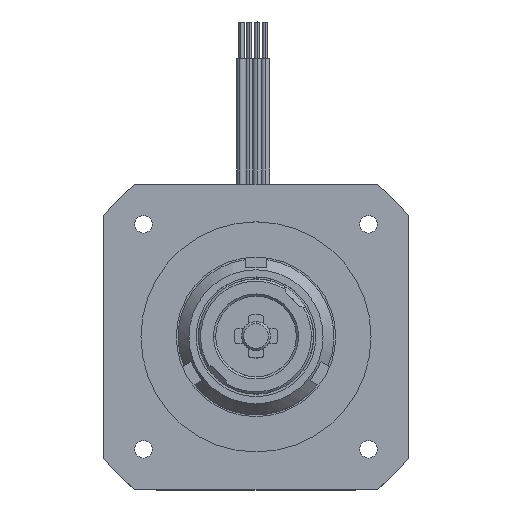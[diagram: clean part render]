
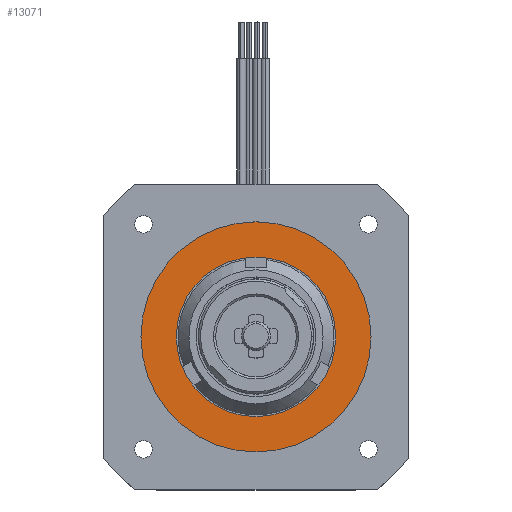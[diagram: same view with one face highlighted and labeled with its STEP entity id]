
A CAD part, top view. The second image highlights one B-rep face of the part: STEP entity #13071.
In plain terms, the highlighted planar face has unit normal (0, 0, 1).
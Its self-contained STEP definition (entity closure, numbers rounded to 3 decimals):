
#1289 = EDGE_LOOP ( 'NONE', ( #14192, #14636 ) ) ;
#1325 = EDGE_LOOP ( 'NONE', ( #14190, #14188 ) ) ;
#2038 = AXIS2_PLACEMENT_3D ( 'NONE', #9612, #9616, #9617 ) ;
#2869 = AXIS2_PLACEMENT_3D ( 'NONE', #11536, #11537, #11538 ) ;
#2881 = FACE_BOUND ( 'NONE', #1325, .T. ) ;
#2935 = VERTEX_POINT ( 'NONE', #9916 ) ;
#2980 = VERTEX_POINT ( 'NONE', #9933 ) ;
#3073 = VERTEX_POINT ( 'NONE', #9963 ) ;
#3076 = FACE_OUTER_BOUND ( 'NONE', #1289, .T. ) ;
#3139 = VERTEX_POINT ( 'NONE', #9988 ) ;
#3978 = CIRCLE ( 'NONE', #4844, 15.875 ) ;
#3989 = CIRCLE ( 'NONE', #2038, 11. ) ;
#4844 = AXIS2_PLACEMENT_3D ( 'NONE', #8866, #8867, #8868 ) ;
#5003 = EDGE_CURVE ( 'NONE', #3139, #2980, #13896, .T. ) ;
#5066 = EDGE_CURVE ( 'NONE', #3073, #2935, #14057, .T. ) ;
#8866 = CARTESIAN_POINT ( 'NONE',  ( 8.538, -5.732, 16.882 ) ) ;
#8867 = DIRECTION ( 'NONE',  ( 0., 0., 1. ) ) ;
#8868 = DIRECTION ( 'NONE',  ( 1., 0., 0. ) ) ;
#9612 = CARTESIAN_POINT ( 'NONE',  ( 8.538, -5.732, 16.882 ) ) ;
#9616 = DIRECTION ( 'NONE',  ( 0., 0., 1. ) ) ;
#9617 = DIRECTION ( 'NONE',  ( 1., 0., 0. ) ) ;
#9916 = CARTESIAN_POINT ( 'NONE',  ( -7.337, -5.732, 16.882 ) ) ;
#9933 = CARTESIAN_POINT ( 'NONE',  ( 19.538, -5.732, 16.882 ) ) ;
#9963 = CARTESIAN_POINT ( 'NONE',  ( 24.413, -5.732, 16.882 ) ) ;
#9988 = CARTESIAN_POINT ( 'NONE',  ( -2.462, -5.732, 16.882 ) ) ;
#10446 = CARTESIAN_POINT ( 'NONE',  ( 8.538, -5.732, 16.882 ) ) ;
#10453 = DIRECTION ( 'NONE',  ( 0., 0., 1. ) ) ;
#10454 = DIRECTION ( 'NONE',  ( 1., 0., 0. ) ) ;
#11535 = PLANE ( 'NONE',  #2869 ) ;
#11536 = CARTESIAN_POINT ( 'NONE',  ( 8.538, -5.732, 16.882 ) ) ;
#11537 = DIRECTION ( 'NONE',  ( 0., 0., 1. ) ) ;
#11538 = DIRECTION ( 'NONE',  ( 1., 0., 0. ) ) ;
#12317 = CARTESIAN_POINT ( 'NONE',  ( 8.538, -5.732, 16.882 ) ) ;
#12318 = DIRECTION ( 'NONE',  ( 0., 0., 1. ) ) ;
#12319 = DIRECTION ( 'NONE',  ( 1., 0., 0. ) ) ;
#13071 = ADVANCED_FACE ( 'NONE', ( #2881, #3076 ), #11535, .T. ) ;
#13319 = EDGE_CURVE ( 'NONE', #2935, #3073, #3978, .T. ) ;
#13530 = EDGE_CURVE ( 'NONE', #2980, #3139, #3989, .T. ) ;
#13680 = AXIS2_PLACEMENT_3D ( 'NONE', #10446, #10453, #10454 ) ;
#13739 = AXIS2_PLACEMENT_3D ( 'NONE', #12317, #12318, #12319 ) ;
#13896 = CIRCLE ( 'NONE', #13680, 11. ) ;
#14057 = CIRCLE ( 'NONE', #13739, 15.875 ) ;
#14188 = ORIENTED_EDGE ( 'NONE', *, *, #13530, .F. ) ;
#14190 = ORIENTED_EDGE ( 'NONE', *, *, #5003, .F. ) ;
#14192 = ORIENTED_EDGE ( 'NONE', *, *, #5066, .T. ) ;
#14636 = ORIENTED_EDGE ( 'NONE', *, *, #13319, .T. ) ;
